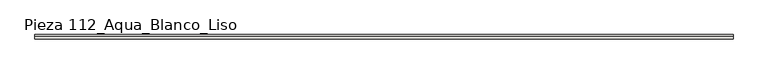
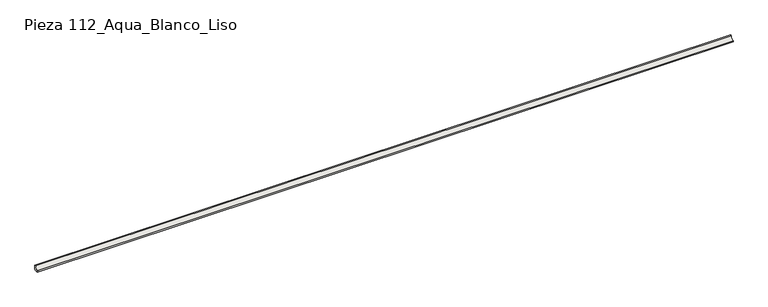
"""IFC4 building model written with IfcOpenShell, lengths in millimetres: slab geometry, ROSA GRES_112 : Pieza 112_Aqua_Blanco_Liso."""

from ifc_helpers import new_model, si_unit, point, frame, frame_2d, origin, place, context, project, spatial, polyline, circle_curve, trimmed, segment, composite_curve, outline, extrude, source, transform, mapped, element, save


def pieza_112_aqua_blanco_liso_302151b8(model_context):
    return source(origin(), model_context, "Body", "SweptSolid", [
        extrude(outline(composite_curve([segment(polyline([(9.9734114, 8.7114978), (1.2619137, 0.0), (-30.0265886, 0.0), (-30.0265886, 9.9734114)]), True, "CONTINUOUS"), segment(trimmed(circle_curve(frame_2d((-30.0221432, 39.9955547)), 30.0221435), [point((-30.0265886, 9.9734114))], [point((0.0, 40.0))], True, "CARTESIAN"), True, "CONTINUOUS"), segment(polyline([(0.0, 40.0), (9.9734114, 40.0), (9.9734114, 8.7114978)]), True, "CONTINUOUS")], self_intersect=False)), frame((0.0, 0.0, 0.0), z_axis=(1.0, 0.0, 0.0), x_axis=(0.0, 1.0, 0.0)), (0.0, 0.0, 1.0), 6265.3087424),
    ])


if __name__ == "__main__":
    model = new_model("IFC4")
    model_context = context("Model", 3, world=origin())
    ifc_project = project(units=[si_unit("LENGTHUNIT", "METRE", prefix="MILLI")], contexts=[model_context])
    site = spatial("IfcSite", under=ifc_project)
    building = spatial("IfcBuilding", under=site)
    placement = place(None, origin())
    pieza_112_aqua_blanco_liso_shape = pieza_112_aqua_blanco_liso_302151b8(model_context)
    element("IfcSlab", 1, ObjectType="ROSA GRES_112 : Pieza 112_Aqua_Blanco_Liso", at=placement, inside=building, context=model_context, shape_type="MappedRepresentation", body=[
        mapped(pieza_112_aqua_blanco_liso_shape, transform((0.0, 0.0, 0.0), x_axis=(1.0, 0.0, 0.0), y_axis=(0.0, 1.0, 0.0), z_axis=(0.0, 0.0, 1.0))),
    ])
    save(model, "model.ifc")
